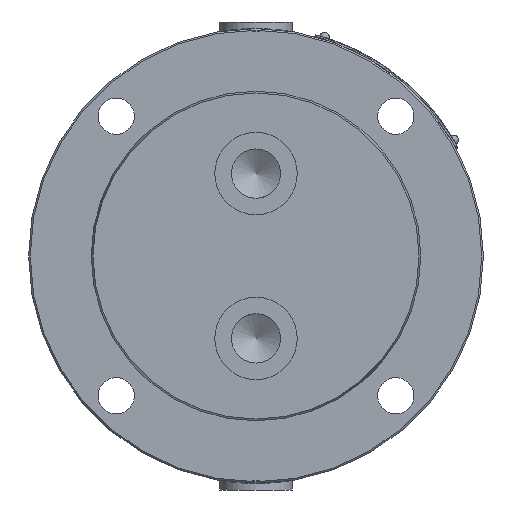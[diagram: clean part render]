
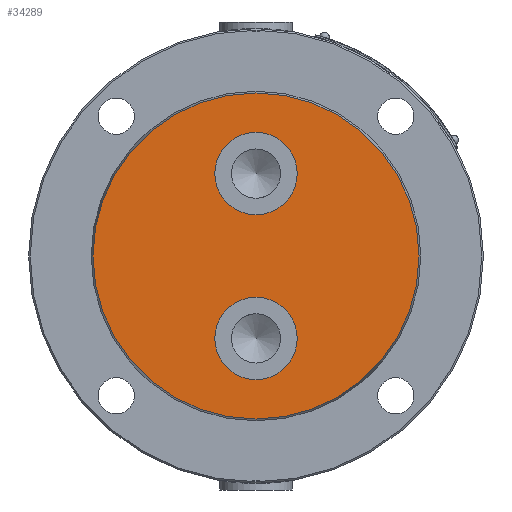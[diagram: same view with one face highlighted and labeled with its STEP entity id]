
A CAD part, left-side view. The second image highlights one B-rep face of the part: STEP entity #34289.
In plain terms, the highlighted planar face has unit normal (-1, 0, 0).
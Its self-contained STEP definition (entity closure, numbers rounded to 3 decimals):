
#2648=FACE_BOUND('',#10049,.T.);
#2649=FACE_BOUND('',#10050,.T.);
#2899=PLANE('',#36503);
#8150=FACE_OUTER_BOUND('',#10048,.T.);
#10048=EDGE_LOOP('',(#24126));
#10049=EDGE_LOOP('',(#24127,#24128));
#10050=EDGE_LOOP('',(#24129,#24130));
#13949=CIRCLE('',#36432,12.5);
#13950=CIRCLE('',#36433,12.5);
#13967=CIRCLE('',#36462,12.5);
#13968=CIRCLE('',#36463,12.5);
#13996=CIRCLE('',#36502,49.464);
#15174=VERTEX_POINT('',#45958);
#15175=VERTEX_POINT('',#45959);
#15196=VERTEX_POINT('',#46089);
#15197=VERTEX_POINT('',#46090);
#15226=VERTEX_POINT('',#46167);
#18777=EDGE_CURVE('',#15174,#15175,#13949,.T.);
#18778=EDGE_CURVE('',#15175,#15174,#13950,.T.);
#18806=EDGE_CURVE('',#15196,#15197,#13967,.T.);
#18807=EDGE_CURVE('',#15197,#15196,#13968,.T.);
#18844=EDGE_CURVE('',#15226,#15226,#13996,.T.);
#24126=ORIENTED_EDGE('',*,*,#18844,.F.);
#24127=ORIENTED_EDGE('',*,*,#18806,.T.);
#24128=ORIENTED_EDGE('',*,*,#18807,.T.);
#24129=ORIENTED_EDGE('',*,*,#18777,.T.);
#24130=ORIENTED_EDGE('',*,*,#18778,.T.);
#34289=ADVANCED_FACE('',(#8150,#2648,#2649),#2899,.T.);
#36432=AXIS2_PLACEMENT_3D('',#45960,#38764,#38765);
#36433=AXIS2_PLACEMENT_3D('',#45961,#38766,#38767);
#36462=AXIS2_PLACEMENT_3D('',#46091,#38831,#38832);
#36463=AXIS2_PLACEMENT_3D('',#46092,#38833,#38834);
#36502=AXIS2_PLACEMENT_3D('',#46169,#38920,#38921);
#36503=AXIS2_PLACEMENT_3D('',#46170,#38922,#38923);
#38764=DIRECTION('center_axis',(1.,0.,0.));
#38765=DIRECTION('ref_axis',(0.,1.,0.));
#38766=DIRECTION('center_axis',(1.,0.,0.));
#38767=DIRECTION('ref_axis',(0.,1.,0.));
#38831=DIRECTION('center_axis',(1.,0.,0.));
#38832=DIRECTION('ref_axis',(0.,-1.,0.));
#38833=DIRECTION('center_axis',(1.,0.,0.));
#38834=DIRECTION('ref_axis',(0.,-1.,0.));
#38920=DIRECTION('center_axis',(1.,0.,0.));
#38921=DIRECTION('ref_axis',(0.,-1.,0.));
#38922=DIRECTION('center_axis',(-1.,0.,0.));
#38923=DIRECTION('ref_axis',(0.,0.,1.));
#45958=CARTESIAN_POINT('',(0.,12.5,25.));
#45959=CARTESIAN_POINT('',(0.,-12.5,25.));
#45960=CARTESIAN_POINT('Origin',(0.,0.,25.));
#45961=CARTESIAN_POINT('Origin',(0.,0.,25.));
#46089=CARTESIAN_POINT('',(0.,-12.5,-25.));
#46090=CARTESIAN_POINT('',(0.,12.5,-25.));
#46091=CARTESIAN_POINT('Origin',(0.,0.,
-25.));
#46092=CARTESIAN_POINT('Origin',(0.,0.,
-25.));
#46167=CARTESIAN_POINT('',(0.,49.464,0.));
#46169=CARTESIAN_POINT('Origin',(0.,0.,0.));
#46170=CARTESIAN_POINT('Origin',(0.,50.,0.));
